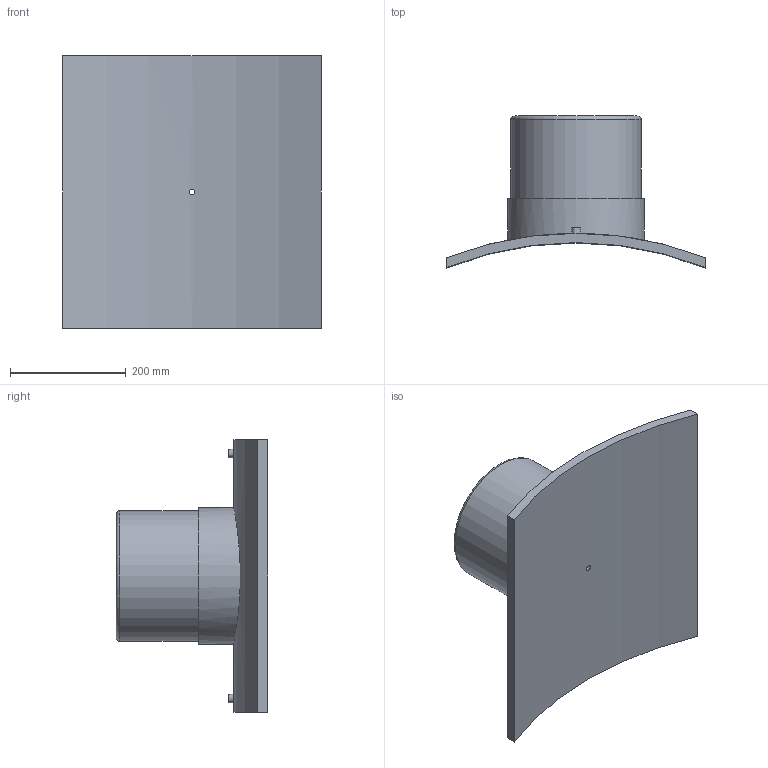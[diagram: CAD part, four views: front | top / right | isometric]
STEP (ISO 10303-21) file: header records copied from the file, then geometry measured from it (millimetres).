
FILE_DESCRIPTION(/* description */ ('PLASSON BRANCH SADDLE 1200x225'),/* implementation_level */ '2;1');
FILE_NAME(/* name */ 'C:\Dropbox\KIMPROJECTS-Inventor 2019\99-16-3568-Processing\ElectroFusion Fittings\495803\stp\4958031200225T.stp',/* time_stamp */ '2024-04-04T11:48:09+02:00',/* author */ ('KIM'),/* organization */ (''),/* preprocessor_version */ 'ST-DEVELOPER v17.2',/* originating_system */ 'Autodesk Inventor 2019',/* authorisation */ '');
FILE_SCHEMA (('AUTOMOTIVE_DESIGN { 1 0 10303 214 3 1 1 }'));
Length unit declared in the file: millimetre
Products named in the file (1): 4958031200225T
Bounding box: 447 x 262.18 x 470 mm (x, y, z)
Volume: 6682323.2 mm3; surface area: 734702.4 mm2
Topology: 1 solids, 1 shells, 29 faces, 60 edges, 43 vertices
Faces by surface type: plane 13, cylinder 12, torus 2, cone 2
Full cylindrical faces by diameter (mm): 4 x2, 9.6 x1, 10 x2, 16 x1, 180 x1, 225 x1, 236.25 x1
Entity records: 1086 total; most frequent: CARTESIAN_POINT 400, DIRECTION 139, ORIENTED_EDGE 120, EDGE_CURVE 60, AXIS2_PLACEMENT_3D 60, VERTEX_POINT 43, EDGE_LOOP 41, CIRCLE 30
